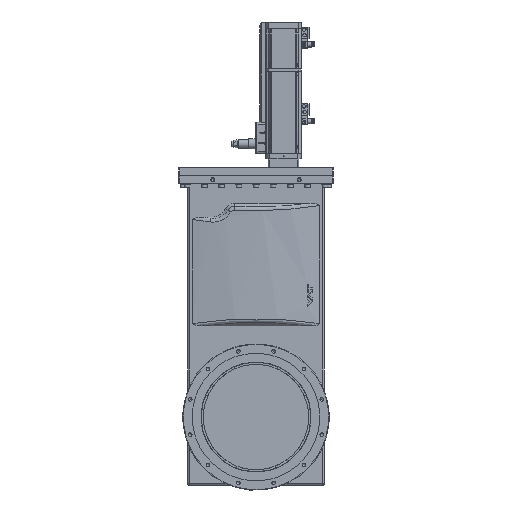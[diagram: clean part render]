
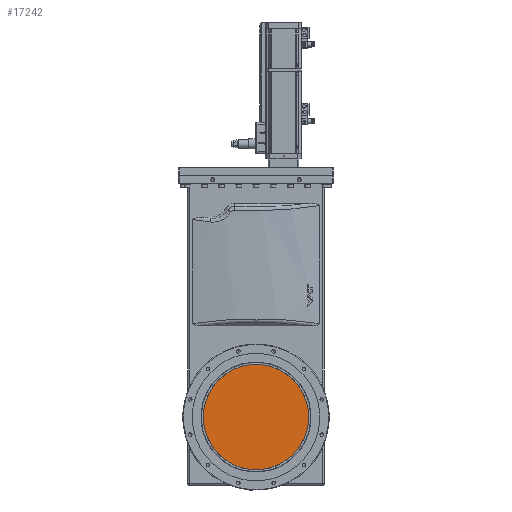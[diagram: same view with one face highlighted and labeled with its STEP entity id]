
A CAD part, front view. The second image highlights one B-rep face of the part: STEP entity #17242.
In plain terms, the highlighted planar face has unit normal (0, -1, 0) as drawn and (0, 0, -1) by its records, which use the part's own axes.
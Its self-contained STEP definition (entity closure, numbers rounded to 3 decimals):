
#15300=FACE_OUTER_BOUND('',#22734,.T.);
#17242=ADVANCED_FACE('',(#15300),#18554,.F.);
#18554=PLANE('',#50879);
#22734=EDGE_LOOP('',(#36941));
#36941=ORIENTED_EDGE('',*,*,#45906,.F.);
#41337=VERTEX_POINT('',#77679);
#45906=EDGE_CURVE('',#41337,#41337,#47847,.T.);
#47847=CIRCLE('',#50876,165.);
#50876=AXIS2_PLACEMENT_3D('',#77678,#59110,#59111);
#50879=AXIS2_PLACEMENT_3D('',#77682,#59116,#59117);
#59110=DIRECTION('',(0.,0.,1.));
#59111=DIRECTION('',(1.,0.,0.));
#59116=DIRECTION('',(0.,0.,1.));
#59117=DIRECTION('',(1.,0.,0.));
#77678=CARTESIAN_POINT('',(0.,0.,0.));
#77679=CARTESIAN_POINT('',(165.,0.,0.));
#77682=CARTESIAN_POINT('',(0.,0.,0.));
